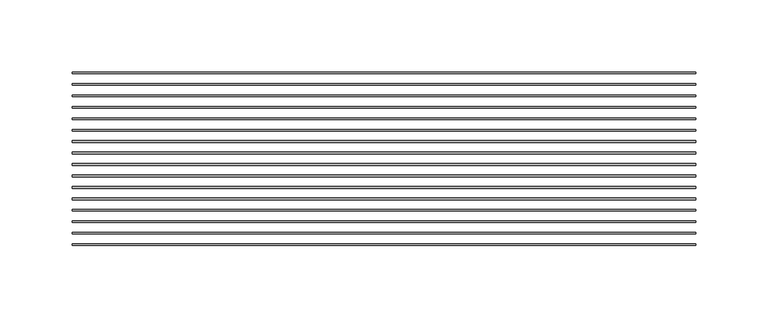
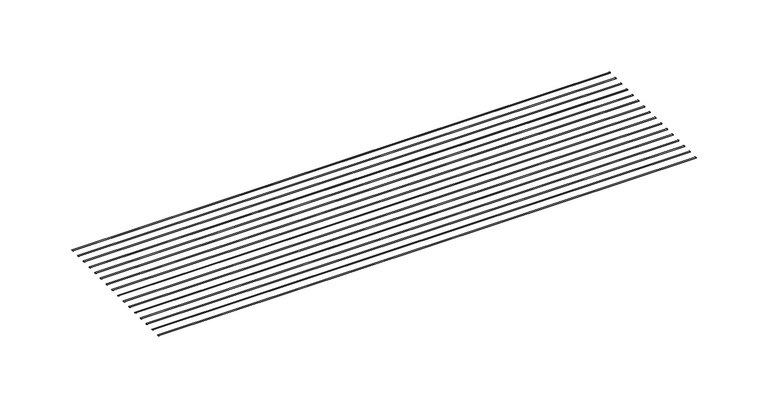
"""IFC4 building model written with IfcOpenShell, lengths in millimetres: proxy geometry, CRAi Generic Model Mesh Piece Face Based : Wider Mesh."""

from ifc_helpers import new_model, si_unit, point, frame, origin, place, context, project, spatial, ellipse_curve, trimmed, source, transform, mapped, element, save
from ifc_brep_helpers import plane_surface, extruded_surface, advanced_brep


def generic_models_29651a44(model_context):
    return source(origin(), model_context, "Body", "AdvancedBrep", [
        advanced_brep(
        [(-215.9, -46.2359375, -2.9765625), (-215.9, -47.4265625, -2.9765625), (215.9, -46.2359375, -2.9765625), (215.9, -47.4265625, -2.9765625)],
        [
            (0, 1, ellipse_curve(frame((-215.9, -46.83125, -2.9765625), z_axis=(-1.0, 0.0, 0.0), x_axis=(0.0, -1.0, 0.0)), 0.5953125, 0.1984375)),
            (1, 0, ellipse_curve(frame((-215.9, -46.83125, -2.9765625), z_axis=(-1.0, 0.0, 0.0), x_axis=(0.0, -1.0, 0.0)), 0.5953125, 0.1984375)),
            (2, 3, ellipse_curve(frame((215.9, -46.83125, -2.9765625), z_axis=(1.0, 0.0, 0.0), x_axis=(0.0, -1.0, 0.0)), 0.5953125, 0.1984375)),
            (3, 2, ellipse_curve(frame((215.9, -46.83125, -2.9765625), z_axis=(1.0, 0.0, 0.0), x_axis=(0.0, -1.0, 0.0)), 0.5953125, 0.1984375)),
            (0, 2),
            (3, 1),
        ],
        [
            plane_surface(frame((-215.9, -46.83125, -2.9765625), z_axis=(-1.0, 0.0, 0.0), x_axis=(0.0, 0.0, 1.0))),
            plane_surface(frame((215.9, -46.83125, -2.9765625), z_axis=(1.0, 0.0, 0.0), x_axis=(0.0, 0.0, 1.0))),
            extruded_surface(trimmed(ellipse_curve(frame((215.9, -46.83125, -2.9765625), z_axis=(-1.0, 0.0, 0.0), x_axis=(0.0, -1.0, 0.0)), 0.5953125, 0.1984375), [point((215.9, -46.2359375, -2.9765625))], [point((215.9, -47.4265625, -2.9765625))], True, "CARTESIAN"), (-431.8, 0.0, 0.0), 431.8),
            extruded_surface(trimmed(ellipse_curve(frame((215.9, -46.83125, -2.9765625), z_axis=(-1.0, 0.0, 0.0), x_axis=(0.0, -1.0, 0.0)), 0.5953125, 0.1984375), [point((215.9, -47.4265625, -2.9765625))], [point((215.9, -46.2359375, -2.9765625))], True, "CARTESIAN"), (-431.8, 0.0, 0.0), 431.8),
        ],
        [
            (0, [[1, 2]]),
            (1, [[3, 4]]),
            (2, [[-1, 5, -4, 6]]),
            (3, [[-2, -6, -3, -5]]),
        ],
    ),
        advanced_brep(
        [(-215.9, -54.1734375, -2.9765625), (-215.9, -55.3640625, -2.9765625), (215.9, -54.1734375, -2.9765625), (215.9, -55.3640625, -2.9765625)],
        [
            (0, 1, ellipse_curve(frame((-215.9, -54.76875, -2.9765625), z_axis=(-1.0, 0.0, 0.0), x_axis=(0.0, -1.0, 0.0)), 0.5953125, 0.1984375)),
            (1, 0, ellipse_curve(frame((-215.9, -54.76875, -2.9765625), z_axis=(-1.0, 0.0, 0.0), x_axis=(0.0, -1.0, 0.0)), 0.5953125, 0.1984375)),
            (2, 3, ellipse_curve(frame((215.9, -54.76875, -2.9765625), z_axis=(1.0, 0.0, 0.0), x_axis=(0.0, -1.0, 0.0)), 0.5953125, 0.1984375)),
            (3, 2, ellipse_curve(frame((215.9, -54.76875, -2.9765625), z_axis=(1.0, 0.0, 0.0), x_axis=(0.0, -1.0, 0.0)), 0.5953125, 0.1984375)),
            (0, 2),
            (3, 1),
        ],
        [
            plane_surface(frame((-215.9, -54.76875, -2.9765625), z_axis=(-1.0, 0.0, 0.0), x_axis=(0.0, 0.0, 1.0))),
            plane_surface(frame((215.9, -54.76875, -2.9765625), z_axis=(1.0, 0.0, 0.0), x_axis=(0.0, 0.0, 1.0))),
            extruded_surface(trimmed(ellipse_curve(frame((215.9, -54.76875, -2.9765625), z_axis=(-1.0, 0.0, 0.0), x_axis=(0.0, -1.0, 0.0)), 0.5953125, 0.1984375), [point((215.9, -54.1734375, -2.9765625))], [point((215.9, -55.3640625, -2.9765625))], True, "CARTESIAN"), (-431.8, 0.0, 0.0), 431.8),
            extruded_surface(trimmed(ellipse_curve(frame((215.9, -54.76875, -2.9765625), z_axis=(-1.0, 0.0, 0.0), x_axis=(0.0, -1.0, 0.0)), 0.5953125, 0.1984375), [point((215.9, -55.3640625, -2.9765625))], [point((215.9, -54.1734375, -2.9765625))], True, "CARTESIAN"), (-431.8, 0.0, 0.0), 431.8),
        ],
        [
            (0, [[1, 2]]),
            (1, [[3, 4]]),
            (2, [[-1, 5, -4, 6]]),
            (3, [[-2, -6, -3, -5]]),
        ],
    ),
        advanced_brep(
        [(-215.9, -62.1109375, -2.9765625), (-215.9, -63.3015625, -2.9765625), (215.9, -62.1109375, -2.9765625), (215.9, -63.3015625, -2.9765625)],
        [
            (0, 1, ellipse_curve(frame((-215.9, -62.70625, -2.9765625), z_axis=(-1.0, 0.0, 0.0), x_axis=(0.0, -1.0, 0.0)), 0.5953125, 0.1984375)),
            (1, 0, ellipse_curve(frame((-215.9, -62.70625, -2.9765625), z_axis=(-1.0, 0.0, 0.0), x_axis=(0.0, -1.0, 0.0)), 0.5953125, 0.1984375)),
            (2, 3, ellipse_curve(frame((215.9, -62.70625, -2.9765625), z_axis=(1.0, 0.0, 0.0), x_axis=(0.0, -1.0, 0.0)), 0.5953125, 0.1984375)),
            (3, 2, ellipse_curve(frame((215.9, -62.70625, -2.9765625), z_axis=(1.0, 0.0, 0.0), x_axis=(0.0, -1.0, 0.0)), 0.5953125, 0.1984375)),
            (0, 2),
            (3, 1),
        ],
        [
            plane_surface(frame((-215.9, -62.70625, -2.9765625), z_axis=(-1.0, 0.0, 0.0), x_axis=(0.0, 0.0, 1.0))),
            plane_surface(frame((215.9, -62.70625, -2.9765625), z_axis=(1.0, 0.0, 0.0), x_axis=(0.0, 0.0, 1.0))),
            extruded_surface(trimmed(ellipse_curve(frame((215.9, -62.70625, -2.9765625), z_axis=(-1.0, 0.0, 0.0), x_axis=(0.0, -1.0, 0.0)), 0.5953125, 0.1984375), [point((215.9, -62.1109375, -2.9765625))], [point((215.9, -63.3015625, -2.9765625))], True, "CARTESIAN"), (-431.8, 0.0, 0.0), 431.8),
            extruded_surface(trimmed(ellipse_curve(frame((215.9, -62.70625, -2.9765625), z_axis=(-1.0, 0.0, 0.0), x_axis=(0.0, -1.0, 0.0)), 0.5953125, 0.1984375), [point((215.9, -63.3015625, -2.9765625))], [point((215.9, -62.1109375, -2.9765625))], True, "CARTESIAN"), (-431.8, 0.0, 0.0), 431.8),
        ],
        [
            (0, [[1, 2]]),
            (1, [[3, 4]]),
            (2, [[-1, 5, -4, 6]]),
            (3, [[-2, -6, -3, -5]]),
        ],
    ),
        advanced_brep(
        [(-215.9, -70.0484375, -2.9765625), (-215.9, -71.2390625, -2.9765625), (215.9, -70.0484375, -2.9765625), (215.9, -71.2390625, -2.9765625)],
        [
            (0, 1, ellipse_curve(frame((-215.9, -70.64375, -2.9765625), z_axis=(-1.0, 0.0, 0.0), x_axis=(0.0, -1.0, 0.0)), 0.5953125, 0.1984375)),
            (1, 0, ellipse_curve(frame((-215.9, -70.64375, -2.9765625), z_axis=(-1.0, 0.0, 0.0), x_axis=(0.0, -1.0, 0.0)), 0.5953125, 0.1984375)),
            (2, 3, ellipse_curve(frame((215.9, -70.64375, -2.9765625), z_axis=(1.0, 0.0, 0.0), x_axis=(0.0, -1.0, 0.0)), 0.5953125, 0.1984375)),
            (3, 2, ellipse_curve(frame((215.9, -70.64375, -2.9765625), z_axis=(1.0, 0.0, 0.0), x_axis=(0.0, -1.0, 0.0)), 0.5953125, 0.1984375)),
            (0, 2),
            (3, 1),
        ],
        [
            plane_surface(frame((-215.9, -70.64375, -2.9765625), z_axis=(-1.0, 0.0, 0.0), x_axis=(0.0, 0.0, 1.0))),
            plane_surface(frame((215.9, -70.64375, -2.9765625), z_axis=(1.0, 0.0, 0.0), x_axis=(0.0, 0.0, 1.0))),
            extruded_surface(trimmed(ellipse_curve(frame((215.9, -70.64375, -2.9765625), z_axis=(-1.0, 0.0, 0.0), x_axis=(0.0, -1.0, 0.0)), 0.5953125, 0.1984375), [point((215.9, -70.0484375, -2.9765625))], [point((215.9, -71.2390625, -2.9765625))], True, "CARTESIAN"), (-431.8, 0.0, 0.0), 431.8),
            extruded_surface(trimmed(ellipse_curve(frame((215.9, -70.64375, -2.9765625), z_axis=(-1.0, 0.0, 0.0), x_axis=(0.0, -1.0, 0.0)), 0.5953125, 0.1984375), [point((215.9, -71.2390625, -2.9765625))], [point((215.9, -70.0484375, -2.9765625))], True, "CARTESIAN"), (-431.8, 0.0, 0.0), 431.8),
        ],
        [
            (0, [[1, 2]]),
            (1, [[3, 4]]),
            (2, [[-1, 5, -4, 6]]),
            (3, [[-2, -6, -3, -5]]),
        ],
    ),
        advanced_brep(
        [(-215.9, -77.9859375, -2.9765625), (-215.9, -79.1765625, -2.9765625), (215.9, -77.9859375, -2.9765625), (215.9, -79.1765625, -2.9765625)],
        [
            (0, 1, ellipse_curve(frame((-215.9, -78.58125, -2.9765625), z_axis=(-1.0, 0.0, 0.0), x_axis=(0.0, -1.0, 0.0)), 0.5953125, 0.1984375)),
            (1, 0, ellipse_curve(frame((-215.9, -78.58125, -2.9765625), z_axis=(-1.0, 0.0, 0.0), x_axis=(0.0, -1.0, 0.0)), 0.5953125, 0.1984375)),
            (2, 3, ellipse_curve(frame((215.9, -78.58125, -2.9765625), z_axis=(1.0, 0.0, 0.0), x_axis=(0.0, -1.0, 0.0)), 0.5953125, 0.1984375)),
            (3, 2, ellipse_curve(frame((215.9, -78.58125, -2.9765625), z_axis=(1.0, 0.0, 0.0), x_axis=(0.0, -1.0, 0.0)), 0.5953125, 0.1984375)),
            (0, 2),
            (3, 1),
        ],
        [
            plane_surface(frame((-215.9, -78.58125, -2.9765625), z_axis=(-1.0, 0.0, 0.0), x_axis=(0.0, 0.0, 1.0))),
            plane_surface(frame((215.9, -78.58125, -2.9765625), z_axis=(1.0, 0.0, 0.0), x_axis=(0.0, 0.0, 1.0))),
            extruded_surface(trimmed(ellipse_curve(frame((215.9, -78.58125, -2.9765625), z_axis=(-1.0, 0.0, 0.0), x_axis=(0.0, -1.0, 0.0)), 0.5953125, 0.1984375), [point((215.9, -77.9859375, -2.9765625))], [point((215.9, -79.1765625, -2.9765625))], True, "CARTESIAN"), (-431.8, 0.0, 0.0), 431.8),
            extruded_surface(trimmed(ellipse_curve(frame((215.9, -78.58125, -2.9765625), z_axis=(-1.0, 0.0, 0.0), x_axis=(0.0, -1.0, 0.0)), 0.5953125, 0.1984375), [point((215.9, -79.1765625, -2.9765625))], [point((215.9, -77.9859375, -2.9765625))], True, "CARTESIAN"), (-431.8, 0.0, 0.0), 431.8),
        ],
        [
            (0, [[1, 2]]),
            (1, [[3, 4]]),
            (2, [[-1, 5, -4, 6]]),
            (3, [[-2, -6, -3, -5]]),
        ],
    ),
        advanced_brep(
        [(-215.9, -85.9234375, -2.9765625), (-215.9, -87.1140625, -2.9765625), (215.9, -85.9234375, -2.9765625), (215.9, -87.1140625, -2.9765625)],
        [
            (0, 1, ellipse_curve(frame((-215.9, -86.51875, -2.9765625), z_axis=(-1.0, 0.0, 0.0), x_axis=(0.0, -1.0, 0.0)), 0.5953125, 0.1984375)),
            (1, 0, ellipse_curve(frame((-215.9, -86.51875, -2.9765625), z_axis=(-1.0, 0.0, 0.0), x_axis=(0.0, -1.0, 0.0)), 0.5953125, 0.1984375)),
            (2, 3, ellipse_curve(frame((215.9, -86.51875, -2.9765625), z_axis=(1.0, 0.0, 0.0), x_axis=(0.0, -1.0, 0.0)), 0.5953125, 0.1984375)),
            (3, 2, ellipse_curve(frame((215.9, -86.51875, -2.9765625), z_axis=(1.0, 0.0, 0.0), x_axis=(0.0, -1.0, 0.0)), 0.5953125, 0.1984375)),
            (0, 2),
            (3, 1),
        ],
        [
            plane_surface(frame((-215.9, -86.51875, -2.9765625), z_axis=(-1.0, 0.0, 0.0), x_axis=(0.0, 0.0, 1.0))),
            plane_surface(frame((215.9, -86.51875, -2.9765625), z_axis=(1.0, 0.0, 0.0), x_axis=(0.0, 0.0, 1.0))),
            extruded_surface(trimmed(ellipse_curve(frame((215.9, -86.51875, -2.9765625), z_axis=(-1.0, 0.0, 0.0), x_axis=(0.0, -1.0, 0.0)), 0.5953125, 0.1984375), [point((215.9, -85.9234375, -2.9765625))], [point((215.9, -87.1140625, -2.9765625))], True, "CARTESIAN"), (-431.8, 0.0, 0.0), 431.8),
            extruded_surface(trimmed(ellipse_curve(frame((215.9, -86.51875, -2.9765625), z_axis=(-1.0, 0.0, 0.0), x_axis=(0.0, -1.0, 0.0)), 0.5953125, 0.1984375), [point((215.9, -87.1140625, -2.9765625))], [point((215.9, -85.9234375, -2.9765625))], True, "CARTESIAN"), (-431.8, 0.0, 0.0), 431.8),
        ],
        [
            (0, [[1, 2]]),
            (1, [[3, 4]]),
            (2, [[-1, 5, -4, 6]]),
            (3, [[-2, -6, -3, -5]]),
        ],
    ),
        advanced_brep(
        [(-215.9, -93.8609375, -2.9765625), (-215.9, -95.0515625, -2.9765625), (215.9, -93.8609375, -2.9765625), (215.9, -95.0515625, -2.9765625)],
        [
            (0, 1, ellipse_curve(frame((-215.9, -94.45625, -2.9765625), z_axis=(-1.0, 0.0, 0.0), x_axis=(0.0, -1.0, 0.0)), 0.5953125, 0.1984375)),
            (1, 0, ellipse_curve(frame((-215.9, -94.45625, -2.9765625), z_axis=(-1.0, 0.0, 0.0), x_axis=(0.0, -1.0, 0.0)), 0.5953125, 0.1984375)),
            (2, 3, ellipse_curve(frame((215.9, -94.45625, -2.9765625), z_axis=(1.0, 0.0, 0.0), x_axis=(0.0, -1.0, 0.0)), 0.5953125, 0.1984375)),
            (3, 2, ellipse_curve(frame((215.9, -94.45625, -2.9765625), z_axis=(1.0, 0.0, 0.0), x_axis=(0.0, -1.0, 0.0)), 0.5953125, 0.1984375)),
            (0, 2),
            (3, 1),
        ],
        [
            plane_surface(frame((-215.9, -94.45625, -2.9765625), z_axis=(-1.0, 0.0, 0.0), x_axis=(0.0, 0.0, 1.0))),
            plane_surface(frame((215.9, -94.45625, -2.9765625), z_axis=(1.0, 0.0, 0.0), x_axis=(0.0, 0.0, 1.0))),
            extruded_surface(trimmed(ellipse_curve(frame((215.9, -94.45625, -2.9765625), z_axis=(-1.0, 0.0, 0.0), x_axis=(0.0, -1.0, 0.0)), 0.5953125, 0.1984375), [point((215.9, -93.8609375, -2.9765625))], [point((215.9, -95.0515625, -2.9765625))], True, "CARTESIAN"), (-431.8, 0.0, 0.0), 431.8),
            extruded_surface(trimmed(ellipse_curve(frame((215.9, -94.45625, -2.9765625), z_axis=(-1.0, 0.0, 0.0), x_axis=(0.0, -1.0, 0.0)), 0.5953125, 0.1984375), [point((215.9, -95.0515625, -2.9765625))], [point((215.9, -93.8609375, -2.9765625))], True, "CARTESIAN"), (-431.8, 0.0, 0.0), 431.8),
        ],
        [
            (0, [[1, 2]]),
            (1, [[3, 4]]),
            (2, [[-1, 5, -4, 6]]),
            (3, [[-2, -6, -3, -5]]),
        ],
    ),
        advanced_brep(
        [(-215.9, -101.7984375, -2.9765625), (-215.9, -102.9890625, -2.9765625), (215.9, -101.7984375, -2.9765625), (215.9, -102.9890625, -2.9765625)],
        [
            (0, 1, ellipse_curve(frame((-215.9, -102.39375, -2.9765625), z_axis=(-1.0, 0.0, 0.0), x_axis=(0.0, -1.0, 0.0)), 0.5953125, 0.1984375)),
            (1, 0, ellipse_curve(frame((-215.9, -102.39375, -2.9765625), z_axis=(-1.0, 0.0, 0.0), x_axis=(0.0, -1.0, 0.0)), 0.5953125, 0.1984375)),
            (2, 3, ellipse_curve(frame((215.9, -102.39375, -2.9765625), z_axis=(1.0, 0.0, 0.0), x_axis=(0.0, -1.0, 0.0)), 0.5953125, 0.1984375)),
            (3, 2, ellipse_curve(frame((215.9, -102.39375, -2.9765625), z_axis=(1.0, 0.0, 0.0), x_axis=(0.0, -1.0, 0.0)), 0.5953125, 0.1984375)),
            (0, 2),
            (3, 1),
        ],
        [
            plane_surface(frame((-215.9, -102.39375, -2.9765625), z_axis=(-1.0, 0.0, 0.0), x_axis=(0.0, 0.0, 1.0))),
            plane_surface(frame((215.9, -102.39375, -2.9765625), z_axis=(1.0, 0.0, 0.0), x_axis=(0.0, 0.0, 1.0))),
            extruded_surface(trimmed(ellipse_curve(frame((215.9, -102.39375, -2.9765625), z_axis=(-1.0, 0.0, 0.0), x_axis=(0.0, -1.0, 0.0)), 0.5953125, 0.1984375), [point((215.9, -101.7984375, -2.9765625))], [point((215.9, -102.9890625, -2.9765625))], True, "CARTESIAN"), (-431.8, 0.0, 0.0), 431.8),
            extruded_surface(trimmed(ellipse_curve(frame((215.9, -102.39375, -2.9765625), z_axis=(-1.0, 0.0, 0.0), x_axis=(0.0, -1.0, 0.0)), 0.5953125, 0.1984375), [point((215.9, -102.9890625, -2.9765625))], [point((215.9, -101.7984375, -2.9765625))], True, "CARTESIAN"), (-431.8, 0.0, 0.0), 431.8),
        ],
        [
            (0, [[1, 2]]),
            (1, [[3, 4]]),
            (2, [[-1, 5, -4, 6]]),
            (3, [[-2, -6, -3, -5]]),
        ],
    ),
        advanced_brep(
        [(-215.9, -109.7359375, -2.9765625), (-215.9, -110.9265625, -2.9765625), (215.9, -109.7359375, -2.9765625), (215.9, -110.9265625, -2.9765625)],
        [
            (0, 1, ellipse_curve(frame((-215.9, -110.33125, -2.9765625), z_axis=(-1.0, 0.0, 0.0), x_axis=(0.0, -1.0, 0.0)), 0.5953125, 0.1984375)),
            (1, 0, ellipse_curve(frame((-215.9, -110.33125, -2.9765625), z_axis=(-1.0, 0.0, 0.0), x_axis=(0.0, -1.0, 0.0)), 0.5953125, 0.1984375)),
            (2, 3, ellipse_curve(frame((215.9, -110.33125, -2.9765625), z_axis=(1.0, 0.0, 0.0), x_axis=(0.0, -1.0, 0.0)), 0.5953125, 0.1984375)),
            (3, 2, ellipse_curve(frame((215.9, -110.33125, -2.9765625), z_axis=(1.0, 0.0, 0.0), x_axis=(0.0, -1.0, 0.0)), 0.5953125, 0.1984375)),
            (0, 2),
            (3, 1),
        ],
        [
            plane_surface(frame((-215.9, -110.33125, -2.9765625), z_axis=(-1.0, 0.0, 0.0), x_axis=(0.0, 0.0, 1.0))),
            plane_surface(frame((215.9, -110.33125, -2.9765625), z_axis=(1.0, 0.0, 0.0), x_axis=(0.0, 0.0, 1.0))),
            extruded_surface(trimmed(ellipse_curve(frame((215.9, -110.33125, -2.9765625), z_axis=(-1.0, 0.0, 0.0), x_axis=(0.0, -1.0, 0.0)), 0.5953125, 0.1984375), [point((215.9, -109.7359375, -2.9765625))], [point((215.9, -110.9265625, -2.9765625))], True, "CARTESIAN"), (-431.8, 0.0, 0.0), 431.8),
            extruded_surface(trimmed(ellipse_curve(frame((215.9, -110.33125, -2.9765625), z_axis=(-1.0, 0.0, 0.0), x_axis=(0.0, -1.0, 0.0)), 0.5953125, 0.1984375), [point((215.9, -110.9265625, -2.9765625))], [point((215.9, -109.7359375, -2.9765625))], True, "CARTESIAN"), (-431.8, 0.0, 0.0), 431.8),
        ],
        [
            (0, [[1, 2]]),
            (1, [[3, 4]]),
            (2, [[-1, 5, -4, 6]]),
            (3, [[-2, -6, -3, -5]]),
        ],
    ),
        advanced_brep(
        [(-215.9, -117.6734375, -2.9765625), (-215.9, -118.8640625, -2.9765625), (215.9, -117.6734375, -2.9765625), (215.9, -118.8640625, -2.9765625)],
        [
            (0, 1, ellipse_curve(frame((-215.9, -118.26875, -2.9765625), z_axis=(-1.0, 0.0, 0.0), x_axis=(0.0, -1.0, 0.0)), 0.5953125, 0.1984375)),
            (1, 0, ellipse_curve(frame((-215.9, -118.26875, -2.9765625), z_axis=(-1.0, 0.0, 0.0), x_axis=(0.0, -1.0, 0.0)), 0.5953125, 0.1984375)),
            (2, 3, ellipse_curve(frame((215.9, -118.26875, -2.9765625), z_axis=(1.0, 0.0, 0.0), x_axis=(0.0, -1.0, 0.0)), 0.5953125, 0.1984375)),
            (3, 2, ellipse_curve(frame((215.9, -118.26875, -2.9765625), z_axis=(1.0, 0.0, 0.0), x_axis=(0.0, -1.0, 0.0)), 0.5953125, 0.1984375)),
            (0, 2),
            (3, 1),
        ],
        [
            plane_surface(frame((-215.9, -118.26875, -2.9765625), z_axis=(-1.0, 0.0, 0.0), x_axis=(0.0, 0.0, 1.0))),
            plane_surface(frame((215.9, -118.26875, -2.9765625), z_axis=(1.0, 0.0, 0.0), x_axis=(0.0, 0.0, 1.0))),
            extruded_surface(trimmed(ellipse_curve(frame((215.9, -118.26875, -2.9765625), z_axis=(-1.0, 0.0, 0.0), x_axis=(0.0, -1.0, 0.0)), 0.5953125, 0.1984375), [point((215.9, -117.6734375, -2.9765625))], [point((215.9, -118.8640625, -2.9765625))], True, "CARTESIAN"), (-431.8, 0.0, 0.0), 431.8),
            extruded_surface(trimmed(ellipse_curve(frame((215.9, -118.26875, -2.9765625), z_axis=(-1.0, 0.0, 0.0), x_axis=(0.0, -1.0, 0.0)), 0.5953125, 0.1984375), [point((215.9, -118.8640625, -2.9765625))], [point((215.9, -117.6734375, -2.9765625))], True, "CARTESIAN"), (-431.8, 0.0, 0.0), 431.8),
        ],
        [
            (0, [[1, 2]]),
            (1, [[3, 4]]),
            (2, [[-1, 5, -4, 6]]),
            (3, [[-2, -6, -3, -5]]),
        ],
    ),
        advanced_brep(
        [(-215.9, -125.6109375, -2.9765625), (-215.9, -126.8015625, -2.9765625), (215.9, -125.6109375, -2.9765625), (215.9, -126.8015625, -2.9765625)],
        [
            (0, 1, ellipse_curve(frame((-215.9, -126.20625, -2.9765625), z_axis=(-1.0, 0.0, 0.0), x_axis=(0.0, -1.0, 0.0)), 0.5953125, 0.1984375)),
            (1, 0, ellipse_curve(frame((-215.9, -126.20625, -2.9765625), z_axis=(-1.0, 0.0, 0.0), x_axis=(0.0, -1.0, 0.0)), 0.5953125, 0.1984375)),
            (2, 3, ellipse_curve(frame((215.9, -126.20625, -2.9765625), z_axis=(1.0, 0.0, 0.0), x_axis=(0.0, -1.0, 0.0)), 0.5953125, 0.1984375)),
            (3, 2, ellipse_curve(frame((215.9, -126.20625, -2.9765625), z_axis=(1.0, 0.0, 0.0), x_axis=(0.0, -1.0, 0.0)), 0.5953125, 0.1984375)),
            (0, 2),
            (3, 1),
        ],
        [
            plane_surface(frame((-215.9, -126.20625, -2.9765625), z_axis=(-1.0, 0.0, 0.0), x_axis=(0.0, 0.0, 1.0))),
            plane_surface(frame((215.9, -126.20625, -2.9765625), z_axis=(1.0, 0.0, 0.0), x_axis=(0.0, 0.0, 1.0))),
            extruded_surface(trimmed(ellipse_curve(frame((215.9, -126.20625, -2.9765625), z_axis=(-1.0, 0.0, 0.0), x_axis=(0.0, -1.0, 0.0)), 0.5953125, 0.1984375), [point((215.9, -125.6109375, -2.9765625))], [point((215.9, -126.8015625, -2.9765625))], True, "CARTESIAN"), (-431.8, 0.0, 0.0), 431.8),
            extruded_surface(trimmed(ellipse_curve(frame((215.9, -126.20625, -2.9765625), z_axis=(-1.0, 0.0, 0.0), x_axis=(0.0, -1.0, 0.0)), 0.5953125, 0.1984375), [point((215.9, -126.8015625, -2.9765625))], [point((215.9, -125.6109375, -2.9765625))], True, "CARTESIAN"), (-431.8, 0.0, 0.0), 431.8),
        ],
        [
            (0, [[1, 2]]),
            (1, [[3, 4]]),
            (2, [[-1, 5, -4, 6]]),
            (3, [[-2, -6, -3, -5]]),
        ],
    ),
        advanced_brep(
        [(-215.9, -133.5484375, -2.9765625), (-215.9, -134.7390625, -2.9765625), (215.9, -133.5484375, -2.9765625), (215.9, -134.7390625, -2.9765625)],
        [
            (0, 1, ellipse_curve(frame((-215.9, -134.14375, -2.9765625), z_axis=(-1.0, 0.0, 0.0), x_axis=(0.0, -1.0, 0.0)), 0.5953125, 0.1984375)),
            (1, 0, ellipse_curve(frame((-215.9, -134.14375, -2.9765625), z_axis=(-1.0, 0.0, 0.0), x_axis=(0.0, -1.0, 0.0)), 0.5953125, 0.1984375)),
            (2, 3, ellipse_curve(frame((215.9, -134.14375, -2.9765625), z_axis=(1.0, 0.0, 0.0), x_axis=(0.0, -1.0, 0.0)), 0.5953125, 0.1984375)),
            (3, 2, ellipse_curve(frame((215.9, -134.14375, -2.9765625), z_axis=(1.0, 0.0, 0.0), x_axis=(0.0, -1.0, 0.0)), 0.5953125, 0.1984375)),
            (0, 2),
            (3, 1),
        ],
        [
            plane_surface(frame((-215.9, -134.14375, -2.9765625), z_axis=(-1.0, 0.0, 0.0), x_axis=(0.0, 0.0, 1.0))),
            plane_surface(frame((215.9, -134.14375, -2.9765625), z_axis=(1.0, 0.0, 0.0), x_axis=(0.0, 0.0, 1.0))),
            extruded_surface(trimmed(ellipse_curve(frame((215.9, -134.14375, -2.9765625), z_axis=(-1.0, 0.0, 0.0), x_axis=(0.0, -1.0, 0.0)), 0.5953125, 0.1984375), [point((215.9, -133.5484375, -2.9765625))], [point((215.9, -134.7390625, -2.9765625))], True, "CARTESIAN"), (-431.8, 0.0, 0.0), 431.8),
            extruded_surface(trimmed(ellipse_curve(frame((215.9, -134.14375, -2.9765625), z_axis=(-1.0, 0.0, 0.0), x_axis=(0.0, -1.0, 0.0)), 0.5953125, 0.1984375), [point((215.9, -134.7390625, -2.9765625))], [point((215.9, -133.5484375, -2.9765625))], True, "CARTESIAN"), (-431.8, 0.0, 0.0), 431.8),
        ],
        [
            (0, [[1, 2]]),
            (1, [[3, 4]]),
            (2, [[-1, 5, -4, 6]]),
            (3, [[-2, -6, -3, -5]]),
        ],
    ),
        advanced_brep(
        [(-215.9, -141.4859375, -2.9765625), (-215.9, -142.6765625, -2.9765625), (215.9, -141.4859375, -2.9765625), (215.9, -142.6765625, -2.9765625)],
        [
            (0, 1, ellipse_curve(frame((-215.9, -142.08125, -2.9765625), z_axis=(-1.0, 0.0, 0.0), x_axis=(0.0, -1.0, 0.0)), 0.5953125, 0.1984375)),
            (1, 0, ellipse_curve(frame((-215.9, -142.08125, -2.9765625), z_axis=(-1.0, 0.0, 0.0), x_axis=(0.0, -1.0, 0.0)), 0.5953125, 0.1984375)),
            (2, 3, ellipse_curve(frame((215.9, -142.08125, -2.9765625), z_axis=(1.0, 0.0, 0.0), x_axis=(0.0, -1.0, 0.0)), 0.5953125, 0.1984375)),
            (3, 2, ellipse_curve(frame((215.9, -142.08125, -2.9765625), z_axis=(1.0, 0.0, 0.0), x_axis=(0.0, -1.0, 0.0)), 0.5953125, 0.1984375)),
            (0, 2),
            (3, 1),
        ],
        [
            plane_surface(frame((-215.9, -142.08125, -2.9765625), z_axis=(-1.0, 0.0, 0.0), x_axis=(0.0, 0.0, 1.0))),
            plane_surface(frame((215.9, -142.08125, -2.9765625), z_axis=(1.0, 0.0, 0.0), x_axis=(0.0, 0.0, 1.0))),
            extruded_surface(trimmed(ellipse_curve(frame((215.9, -142.08125, -2.9765625), z_axis=(-1.0, 0.0, 0.0), x_axis=(0.0, -1.0, 0.0)), 0.5953125, 0.1984375), [point((215.9, -141.4859375, -2.9765625))], [point((215.9, -142.6765625, -2.9765625))], True, "CARTESIAN"), (-431.8, 0.0, 0.0), 431.8),
            extruded_surface(trimmed(ellipse_curve(frame((215.9, -142.08125, -2.9765625), z_axis=(-1.0, 0.0, 0.0), x_axis=(0.0, -1.0, 0.0)), 0.5953125, 0.1984375), [point((215.9, -142.6765625, -2.9765625))], [point((215.9, -141.4859375, -2.9765625))], True, "CARTESIAN"), (-431.8, 0.0, 0.0), 431.8),
        ],
        [
            (0, [[1, 2]]),
            (1, [[3, 4]]),
            (2, [[-1, 5, -4, 6]]),
            (3, [[-2, -6, -3, -5]]),
        ],
    ),
        advanced_brep(
        [(-215.9, -149.4234375, -2.9765625), (-215.9, -150.6140625, -2.9765625), (215.9, -149.4234375, -2.9765625), (215.9, -150.6140625, -2.9765625)],
        [
            (0, 1, ellipse_curve(frame((-215.9, -150.01875, -2.9765625), z_axis=(-1.0, 0.0, 0.0), x_axis=(0.0, -1.0, 0.0)), 0.5953125, 0.1984375)),
            (1, 0, ellipse_curve(frame((-215.9, -150.01875, -2.9765625), z_axis=(-1.0, 0.0, 0.0), x_axis=(0.0, -1.0, 0.0)), 0.5953125, 0.1984375)),
            (2, 3, ellipse_curve(frame((215.9, -150.01875, -2.9765625), z_axis=(1.0, 0.0, 0.0), x_axis=(0.0, -1.0, 0.0)), 0.5953125, 0.1984375)),
            (3, 2, ellipse_curve(frame((215.9, -150.01875, -2.9765625), z_axis=(1.0, 0.0, 0.0), x_axis=(0.0, -1.0, 0.0)), 0.5953125, 0.1984375)),
            (0, 2),
            (3, 1),
        ],
        [
            plane_surface(frame((-215.9, -150.01875, -2.9765625), z_axis=(-1.0, 0.0, 0.0), x_axis=(0.0, 0.0, 1.0))),
            plane_surface(frame((215.9, -150.01875, -2.9765625), z_axis=(1.0, 0.0, 0.0), x_axis=(0.0, 0.0, 1.0))),
            extruded_surface(trimmed(ellipse_curve(frame((215.9, -150.01875, -2.9765625), z_axis=(-1.0, 0.0, 0.0), x_axis=(0.0, -1.0, 0.0)), 0.5953125, 0.1984375), [point((215.9, -149.4234375, -2.9765625))], [point((215.9, -150.6140625, -2.9765625))], True, "CARTESIAN"), (-431.8, 0.0, 0.0), 431.8),
            extruded_surface(trimmed(ellipse_curve(frame((215.9, -150.01875, -2.9765625), z_axis=(-1.0, 0.0, 0.0), x_axis=(0.0, -1.0, 0.0)), 0.5953125, 0.1984375), [point((215.9, -150.6140625, -2.9765625))], [point((215.9, -149.4234375, -2.9765625))], True, "CARTESIAN"), (-431.8, 0.0, 0.0), 431.8),
        ],
        [
            (0, [[1, 2]]),
            (1, [[3, 4]]),
            (2, [[-1, 5, -4, 6]]),
            (3, [[-2, -6, -3, -5]]),
        ],
    ),
        advanced_brep(
        [(-215.9, -157.3609375, -2.9765625), (-215.9, -158.5515625, -2.9765625), (215.9, -157.3609375, -2.9765625), (215.9, -158.5515625, -2.9765625)],
        [
            (0, 1, ellipse_curve(frame((-215.9, -157.95625, -2.9765625), z_axis=(-1.0, 0.0, 0.0), x_axis=(0.0, -1.0, 0.0)), 0.5953125, 0.1984375)),
            (1, 0, ellipse_curve(frame((-215.9, -157.95625, -2.9765625), z_axis=(-1.0, 0.0, 0.0), x_axis=(0.0, -1.0, 0.0)), 0.5953125, 0.1984375)),
            (2, 3, ellipse_curve(frame((215.9, -157.95625, -2.9765625), z_axis=(1.0, 0.0, 0.0), x_axis=(0.0, -1.0, 0.0)), 0.5953125, 0.1984375)),
            (3, 2, ellipse_curve(frame((215.9, -157.95625, -2.9765625), z_axis=(1.0, 0.0, 0.0), x_axis=(0.0, -1.0, 0.0)), 0.5953125, 0.1984375)),
            (0, 2),
            (3, 1),
        ],
        [
            plane_surface(frame((-215.9, -157.95625, -2.9765625), z_axis=(-1.0, 0.0, 0.0), x_axis=(0.0, 0.0, 1.0))),
            plane_surface(frame((215.9, -157.95625, -2.9765625), z_axis=(1.0, 0.0, 0.0), x_axis=(0.0, 0.0, 1.0))),
            extruded_surface(trimmed(ellipse_curve(frame((215.9, -157.95625, -2.9765625), z_axis=(-1.0, 0.0, 0.0), x_axis=(0.0, -1.0, 0.0)), 0.5953125, 0.1984375), [point((215.9, -157.3609375, -2.9765625))], [point((215.9, -158.5515625, -2.9765625))], True, "CARTESIAN"), (-431.8, 0.0, 0.0), 431.8),
            extruded_surface(trimmed(ellipse_curve(frame((215.9, -157.95625, -2.9765625), z_axis=(-1.0, 0.0, 0.0), x_axis=(0.0, -1.0, 0.0)), 0.5953125, 0.1984375), [point((215.9, -158.5515625, -2.9765625))], [point((215.9, -157.3609375, -2.9765625))], True, "CARTESIAN"), (-431.8, 0.0, 0.0), 431.8),
        ],
        [
            (0, [[1, 2]]),
            (1, [[3, 4]]),
            (2, [[-1, 5, -4, 6]]),
            (3, [[-2, -6, -3, -5]]),
        ],
    ),
        advanced_brep(
        [(-215.9, -165.2984375, -2.9765625), (-215.9, -166.4890625, -2.9765625), (215.9, -165.2984375, -2.9765625), (215.9, -166.4890625, -2.9765625)],
        [
            (0, 1, ellipse_curve(frame((-215.9, -165.89375, -2.9765625), z_axis=(-1.0, 0.0, 0.0), x_axis=(0.0, -1.0, 0.0)), 0.5953125, 0.1984375)),
            (1, 0, ellipse_curve(frame((-215.9, -165.89375, -2.9765625), z_axis=(-1.0, 0.0, 0.0), x_axis=(0.0, -1.0, 0.0)), 0.5953125, 0.1984375)),
            (2, 3, ellipse_curve(frame((215.9, -165.89375, -2.9765625), z_axis=(1.0, 0.0, 0.0), x_axis=(0.0, -1.0, 0.0)), 0.5953125, 0.1984375)),
            (3, 2, ellipse_curve(frame((215.9, -165.89375, -2.9765625), z_axis=(1.0, 0.0, 0.0), x_axis=(0.0, -1.0, 0.0)), 0.5953125, 0.1984375)),
            (0, 2),
            (3, 1),
        ],
        [
            plane_surface(frame((-215.9, -165.89375, -2.9765625), z_axis=(-1.0, 0.0, 0.0), x_axis=(0.0, 0.0, 1.0))),
            plane_surface(frame((215.9, -165.89375, -2.9765625), z_axis=(1.0, 0.0, 0.0), x_axis=(0.0, 0.0, 1.0))),
            extruded_surface(trimmed(ellipse_curve(frame((215.9, -165.89375, -2.9765625), z_axis=(-1.0, 0.0, 0.0), x_axis=(0.0, -1.0, 0.0)), 0.5953125, 0.1984375), [point((215.9, -165.2984375, -2.9765625))], [point((215.9, -166.4890625, -2.9765625))], True, "CARTESIAN"), (-431.8, 0.0, 0.0), 431.8),
            extruded_surface(trimmed(ellipse_curve(frame((215.9, -165.89375, -2.9765625), z_axis=(-1.0, 0.0, 0.0), x_axis=(0.0, -1.0, 0.0)), 0.5953125, 0.1984375), [point((215.9, -166.4890625, -2.9765625))], [point((215.9, -165.2984375, -2.9765625))], True, "CARTESIAN"), (-431.8, 0.0, 0.0), 431.8),
        ],
        [
            (0, [[1, 2]]),
            (1, [[3, 4]]),
            (2, [[-1, 5, -4, 6]]),
            (3, [[-2, -6, -3, -5]]),
        ],
    ),
    ])


if __name__ == "__main__":
    model = new_model("IFC4")
    model_context = context("Model", 3, world=origin())
    ifc_project = project(units=[si_unit("LENGTHUNIT", "METRE", prefix="MILLI")], contexts=[model_context])
    site = spatial("IfcSite", under=ifc_project)
    building = spatial("IfcBuilding", under=site)
    placement = place(None, origin())
    generic_models_shape = generic_models_29651a44(model_context)
    element("IfcBuildingElementProxy", 1, Name="CRAi Generic Model Mesh Piece Face Based : Wider Mesh", ObjectType="CRAi Generic Model Mesh Piece Face Based : Wider Mesh", at=placement, inside=building, context=model_context, shape_type="MappedRepresentation", body=[
        mapped(generic_models_shape, transform((0.0, 0.0, 0.0), x_axis=(1.0, 0.0, 0.0), y_axis=(0.0, 1.0, 0.0), z_axis=(0.0, 0.0, 1.0))),
    ])
    save(model, "model.ifc")
